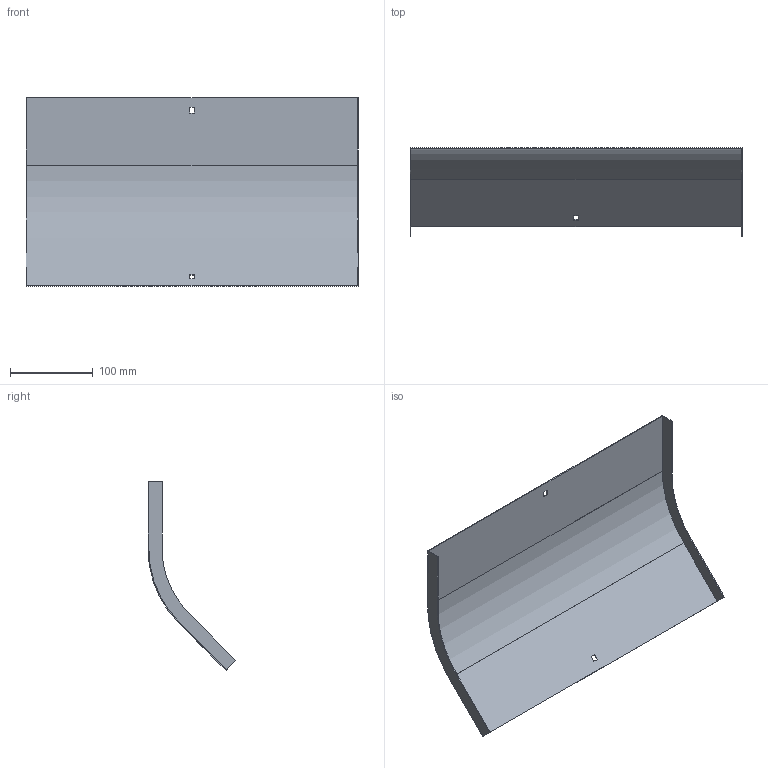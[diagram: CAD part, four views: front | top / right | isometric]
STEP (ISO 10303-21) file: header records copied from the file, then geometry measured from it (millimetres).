
FILE_DESCRIPTION (( 'STEP AP214' ), '1' );
FILE_NAME ('OD4_401.step', '2025-07-16T09:12:00', ( '' ), ( '' ), 'SwSTEP 2.0', 'SolidWorks 2023', '' );
FILE_SCHEMA (( 'AUTOMOTIVE_DESIGN' ));
Length unit declared in the file: millimetre
Products named in the file (1): OD4_401
Bounding box: 402 x 106.5 x 228.09 mm (x, y, z)
Volume: 113154.1 mm3; surface area: 227725.8 mm2
Topology: 1 solids, 1 shells, 26 faces, 72 edges, 48 vertices
Faces by surface type: plane 22, cylinder 4
Entity records: 855 total; most frequent: CARTESIAN_POINT 147, ORIENTED_EDGE 144, DIRECTION 134, EDGE_CURVE 72, LINE 64, VECTOR 64, VERTEX_POINT 48, AXIS2_PLACEMENT_3D 35
